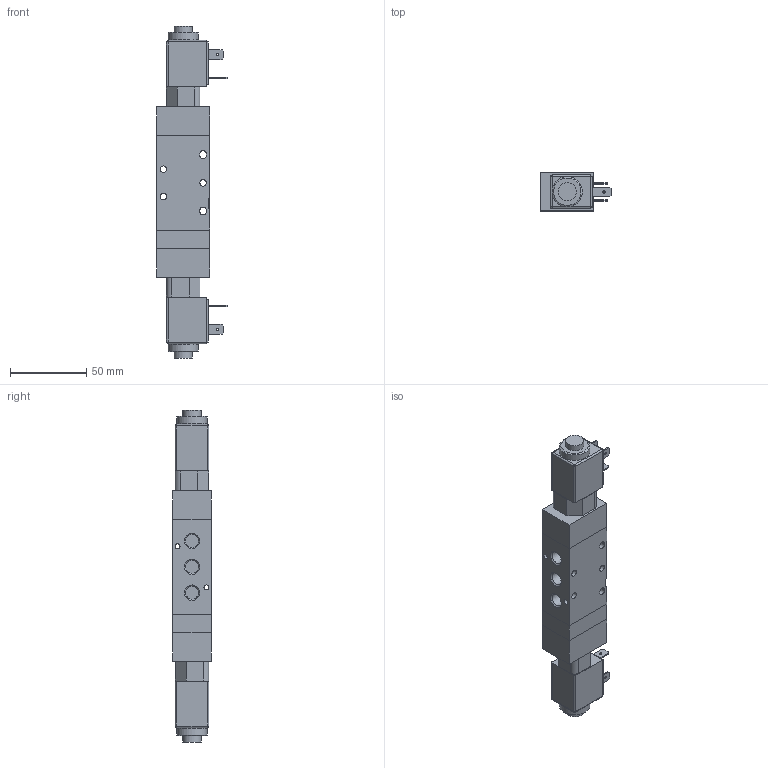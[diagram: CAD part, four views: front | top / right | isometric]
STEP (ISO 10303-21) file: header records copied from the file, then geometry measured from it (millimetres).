
FILE_DESCRIPTION((''),'2;1');
FILE_NAME('K:\A-Roberto\_Inventor\Rev.Librerie\TECNOECO\T488_53_##_0_0E_##.stp','2006-10-06T08:48:54',('rivolro1'),(''),'Autodesk Inventor 11','Autodesk Inventor 11','');
FILE_SCHEMA(('AUTOMOTIVE_DESIGN { 1 0 10303 214 1 1 1 1 }'));
Length unit declared in the file: millimetre
Products named in the file (3): T488_53_##_0_0E_##; T488_53_##_0_0E; MB
Assembly tree (3 placements, depth 2):
  T488_53_##_0_0E_##
    T488_53_##_0_0E
    MB  x2
Bounding box: 46.5 x 25 x 218 mm (x, y, z)
Volume: 144055.4 mm3; surface area: 35603.2 mm2
Topology: 3 solids, 3 shells, 219 faces, 502 edges, 325 vertices
Faces by surface type: plane 129, cylinder 47, bspline 35, cone 4, sphere 4
Full cylindrical faces by diameter (mm): 4.2 x3, 7.4 x2, 7.8 x2, 8 x2, 8.2 x2, 9.8 x2, 10.1 x2, 10.2 x2, 10.7 x2, 12 x2, 13.5 x2, 16.2 x2, 20 x2
Entity records: 4794 total; most frequent: CARTESIAN_POINT 1131, DIRECTION 727, ORIENTED_EDGE 642, EDGE_CURVE 321, EDGE_LOOP 275, AXIS2_PLACEMENT_3D 260, VERTEX_POINT 240, VECTOR 207
